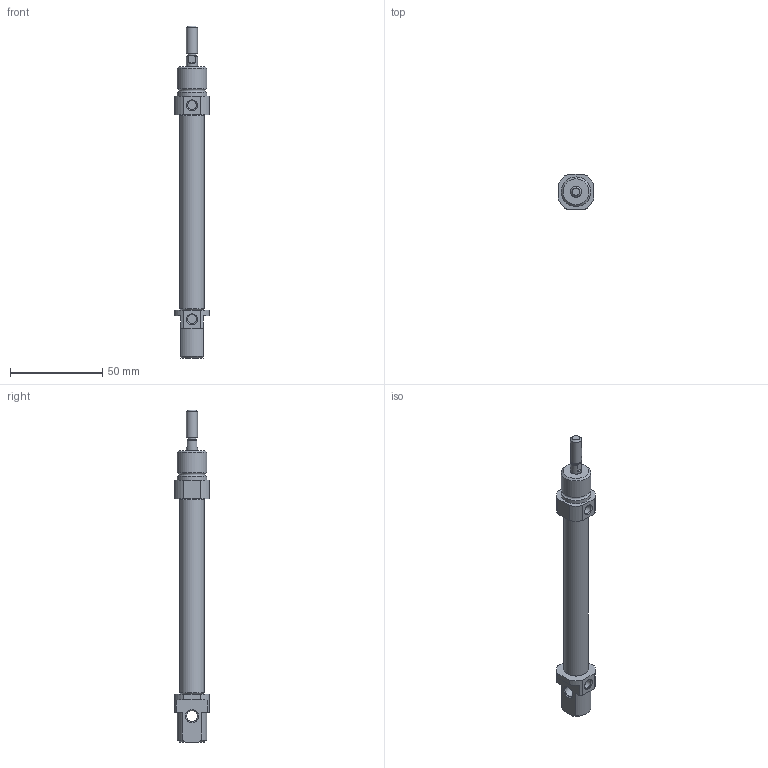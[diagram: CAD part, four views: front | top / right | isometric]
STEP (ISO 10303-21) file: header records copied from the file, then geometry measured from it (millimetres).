
FILE_DESCRIPTION((''),'2;1');
FILE_NAME('I:\3D電子目錄\氣缸\SDA\SDA12\SDA12\SDA12x75.stp','2007-08-06T10:28:14',('Administrator'),(''),'Autodesk Inventor 2008','Autodesk Inventor 2008','');
FILE_SCHEMA(('AUTOMOTIVE_DESIGN { 1 0 10303 214 1 1 1 1 }'));
Length unit declared in the file: millimetre
Products named in the file (1): SDA12X75
Bounding box: 19 x 19 x 180 mm (x, y, z)
Volume: 26044.8 mm3; surface area: 9122.5 mm2
Topology: 1 solids, 1 shells, 60 faces, 138 edges, 88 vertices
Faces by surface type: plane 26, cylinder 19, cone 12, bspline 2, torus 1
Full cylindrical faces by diameter (mm): 4.6 x1, 5 x2, 6 x3, 13.2 x1, 16 x2
Entity records: 1626 total; most frequent: CARTESIAN_POINT 289, DIRECTION 286, ORIENTED_EDGE 238, EDGE_CURVE 119, AXIS2_PLACEMENT_3D 116, EDGE_LOOP 88, VERTEX_POINT 87, FACE_OUTER_BOUND 60
